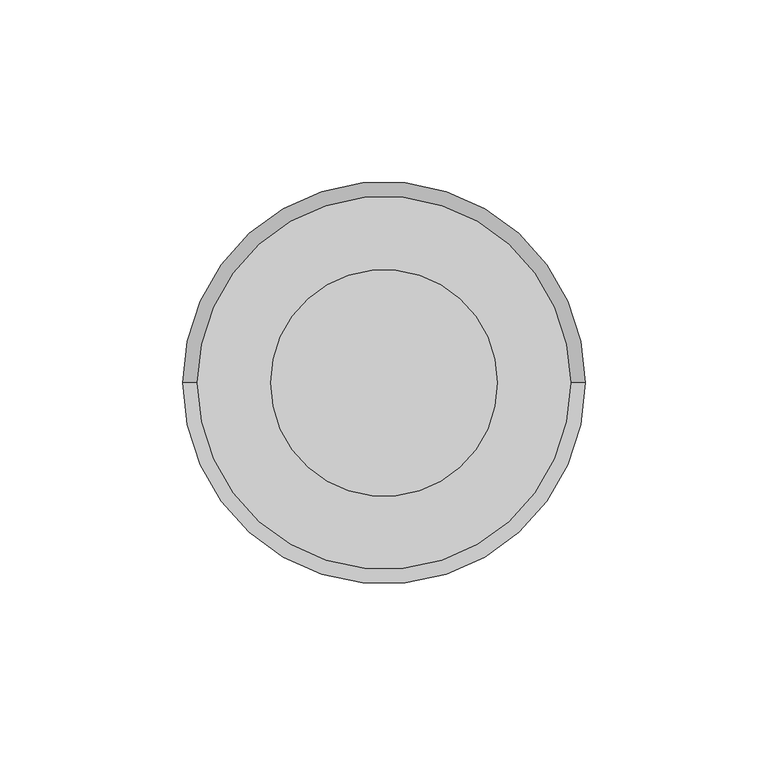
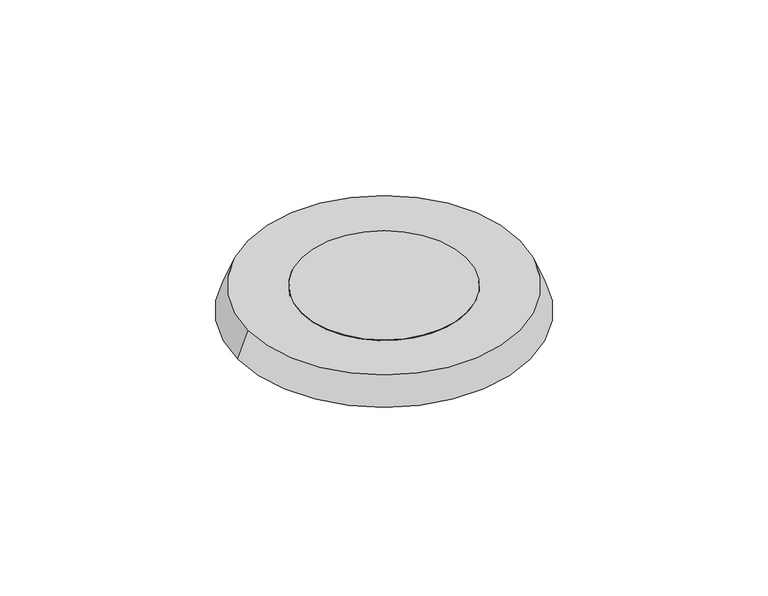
"""IFC4 building model written with IfcOpenShell, lengths in millimetres: light fixture geometry, Iluminação de caminho - Redonda embutida - Com base no chão : Iluminação de caminho - Redonda embutida - Com base no chão."""

from ifc_helpers import new_model, si_unit, point, frame, origin, origin_2d, place, context, project, spatial, polyline, circle_curve, trimmed, segment, composite_curve, outline, extrude, source, transform, mapped, element, save
from ifc_brep_helpers import plane_surface, revolved_surface, advanced_brep


def light_fixture_10b4d906(model_context):
    return source(origin(), model_context, "Body", "SolidModel", [
        extrude(outline(composite_curve([segment(trimmed(circle_curve(origin_2d(), 31.0), [point((-31.0, 0.0))], [point((31.0, 0.0))], False, "CARTESIAN"), True, "CONTINUOUS"), segment(trimmed(circle_curve(origin_2d(), 31.0), [point((31.0, 0.0))], [point((-31.0, 0.0))], False, "CARTESIAN"), True, "CONTINUOUS")], self_intersect=False)), frame((0.0, 0.0, 8.0), z_axis=(0.0, 0.0, 1.0), x_axis=(1.0, 0.0, 0.0)), (0.0, 0.0, 1.0), 2.0),
        advanced_brep(
        [(-51.0, 0.0, 10.0), (51.0, 0.0, 10.0), (31.0, 0.0, 10.0), (-31.0, 0.0, 10.0), (-55.0, 0.0, 0.0), (55.0, 0.0, 0.0), (-31.0, 0.0, 8.0), (31.0, 0.0, 8.0)],
        [
            (0, 1, circle_curve(frame((0.0, 0.0, 10.0), z_axis=(0.0, 0.0, 1.0), x_axis=(-1.0, 0.0, 0.0)), 51.0)),
            (1, 0, circle_curve(frame((0.0, 0.0, 10.0), z_axis=(0.0, 0.0, 1.0), x_axis=(1.0, 0.0, 0.0)), 51.0)),
            (2, 3, circle_curve(frame((0.0, 0.0, 10.0), z_axis=(0.0, 0.0, -1.0), x_axis=(1.0, 0.0, 0.0)), 31.0)),
            (3, 2, circle_curve(frame((0.0, 0.0, 10.0), z_axis=(0.0, 0.0, -1.0), x_axis=(1.0, 0.0, 0.0)), 31.0)),
            (4, 5, circle_curve(frame((0.0, 0.0, 0.0), z_axis=(0.0, 0.0, -1.0), x_axis=(1.0, 0.0, 0.0)), 55.0)),
            (5, 4, circle_curve(frame((0.0, 0.0, 0.0), z_axis=(0.0, 0.0, -1.0), x_axis=(-1.0, 0.0, 0.0)), 55.0)),
            (0, 4),
            (5, 1),
            (6, 7, circle_curve(frame((0.0, 0.0, 8.0), z_axis=(0.0, 0.0, 1.0), x_axis=(1.0, 0.0, 0.0)), 31.0)),
            (7, 6, circle_curve(frame((0.0, 0.0, 8.0), z_axis=(0.0, 0.0, 1.0), x_axis=(1.0, 0.0, 0.0)), 31.0)),
            (6, 3),
            (2, 7),
        ],
        [
            plane_surface(frame((0.0, 0.0, 10.0), z_axis=(0.0, 0.0, 1.0), x_axis=(0.0, -1.0, 0.0))),
            plane_surface(frame((0.0, 0.0, 0.0), z_axis=(0.0, 0.0, -1.0), x_axis=(0.0, -1.0, 0.0))),
            revolved_surface(polyline([(-51.0, 0.0, 10.0), (-55.0, 0.0, 0.0)]), (0.0, 0.0, 137.5), (0.0, 0.0, -1.0)),
            revolved_surface(polyline([(51.0, 0.0, 10.0), (55.0, 0.0, 0.0)]), (0.0, 0.0, 137.5), (0.0, 0.0, -1.0)),
            plane_surface(frame((31.0, 0.0, 8.0), z_axis=(0.0, 0.0, 1.0), x_axis=(0.0, -1.0, 0.0))),
            revolved_surface(polyline([(31.0, 0.0, 10.0), (31.0, 0.0, 8.0)]), (0.0, 0.0, 8.0), (0.0, 0.0, 1.0)),
        ],
        [
            (0, [[1, 2], [3, 4]]),
            (1, [[5, 6]]),
            (2, [[-1, 7, -6, 8]]),
            (3, [[-2, -8, -5, -7]]),
            (4, [[9, 10]]),
            (5, [[-9, 11, -3, 12]]),
            (5, [[-10, -12, -4, -11]]),
        ],
    ),
    ])


if __name__ == "__main__":
    model = new_model("IFC4")
    model_context = context("Model", 3, world=origin())
    ifc_project = project(units=[si_unit("LENGTHUNIT", "METRE", prefix="MILLI")], contexts=[model_context])
    site = spatial("IfcSite", under=ifc_project)
    building = spatial("IfcBuilding", under=site)
    placement = place(None, origin())
    light_fixture_shape = light_fixture_10b4d906(model_context)
    element("IfcLightFixture", 1, ObjectType="Iluminação de caminho - Redonda embutida - Com base no chão : Iluminação de caminho - Redonda embutida - Com base no chão", at=placement, inside=building, context=model_context, shape_type="MappedRepresentation", body=[
        mapped(light_fixture_shape, transform((0.0, 0.0, 0.0), x_axis=(1.0, 0.0, 0.0), y_axis=(0.0, 1.0, 0.0), z_axis=(0.0, 0.0, 1.0))),
    ])
    save(model, "model.ifc")
